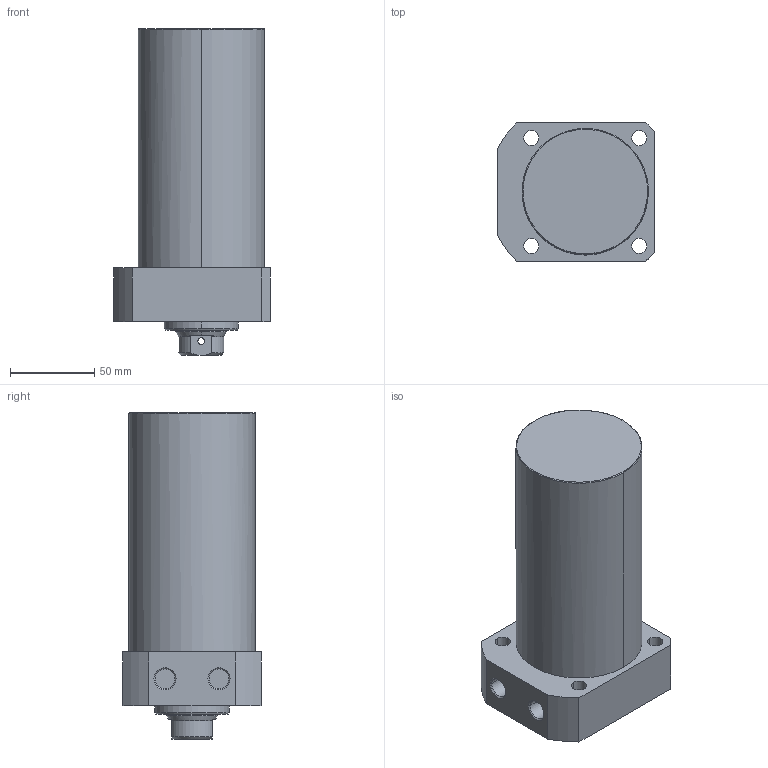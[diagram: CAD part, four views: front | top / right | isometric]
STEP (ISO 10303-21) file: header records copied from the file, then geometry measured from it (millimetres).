
FILE_DESCRIPTION((' '),'2;1');
FILE_NAME( 'TLLR-075CB-105.STEP.stp', '2025-10-24T16:35:08', (' '), ('--- Datakit www.datakit.com---'), ' Datakit CrossCadWare V2024.1 Dec 21 2023', 'Mastercam 2025', ' ');
FILE_SCHEMA(('AUTOMOTIVE_DESIGN { 1 0 10303 214 1 1 1 1 }'));
Length unit declared in the file: millimetre
Products named in the file (1): TLLR-075CB-105
Bounding box: 93 x 82 x 194 mm (x, y, z)
Volume: 862309.5 mm3; surface area: 67198 mm2
Topology: 1 solids, 1 shells, 67 faces, 197 edges, 136 vertices
Faces by surface type: cylinder 32, plane 19, cone 14, torus 2
Entity records: 3386 total; most frequent: CARTESIAN_POINT 1467, DIRECTION 426, ORIENTED_EDGE 390, EDGE_CURVE 195, AXIS2_PLACEMENT_3D 179, VERTEX_POINT 136, CIRCLE 111, EDGE_LOOP 85
